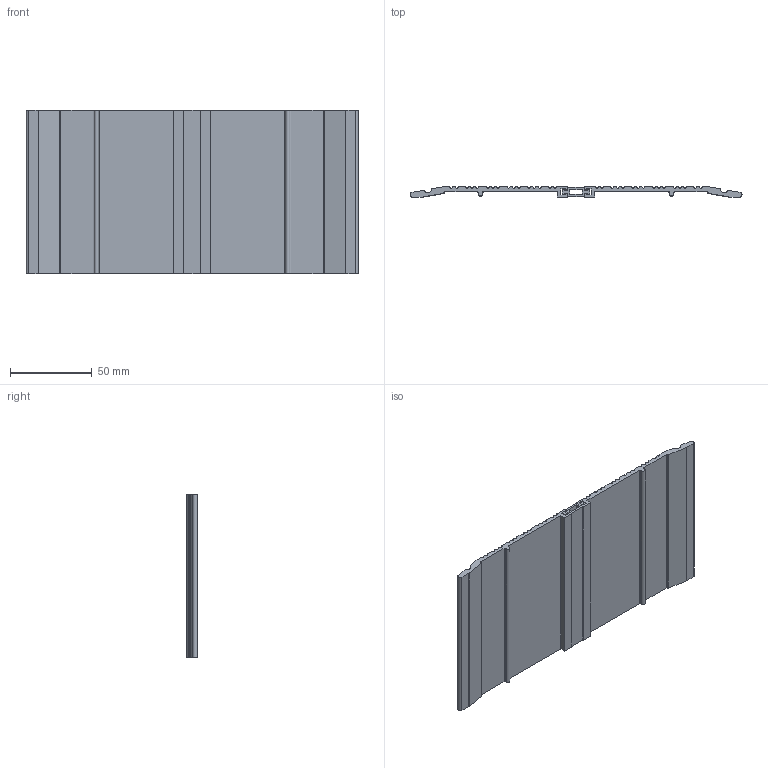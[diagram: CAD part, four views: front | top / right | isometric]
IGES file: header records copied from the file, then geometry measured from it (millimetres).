
Global section: file name: No Iges File Name specified; native system: Autodesk Inventor 2012; preprocessor: AutoDesk Inventor Iges Exporter R2012; author: anna.b; date: 20170316.140826; units: millimetre
Bounding box: 203.19 x 6.35 x 100 mm (x, y, z)
Volume: 63841.1 mm3; surface area: 55085.1 mm2
Topology: 3 solids, 3 shells, 222 faces, 648 edges, 432 vertices
Faces by surface type: plane 104, cylinder 78, revolution 40
